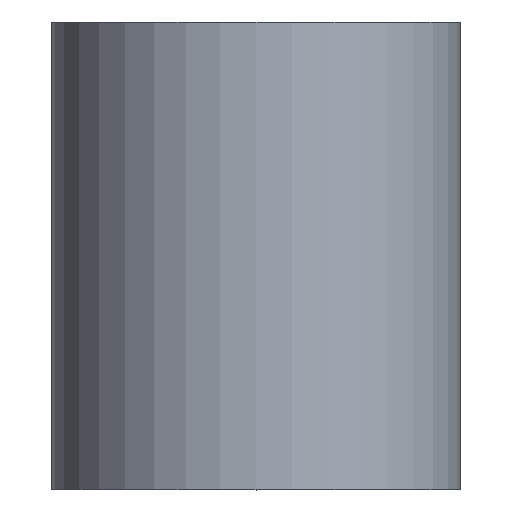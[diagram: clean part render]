
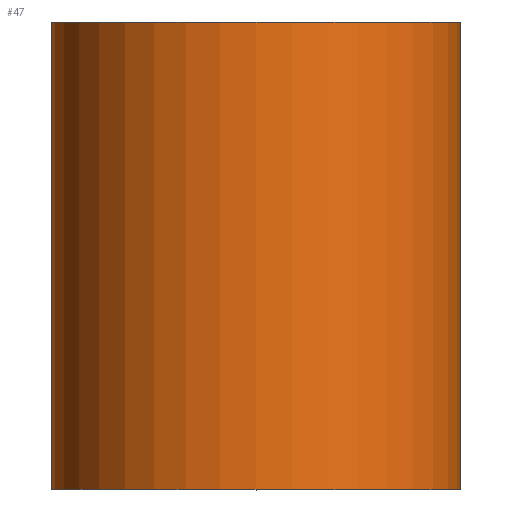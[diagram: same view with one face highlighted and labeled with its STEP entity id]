
A CAD part, top view. The second image highlights one B-rep face of the part: STEP entity #47.
In plain terms, the highlighted cylindrical face has radius 3.5 mm (diameter 7 mm), a partial arc.
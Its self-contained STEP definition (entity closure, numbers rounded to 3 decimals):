
#3 = DIRECTION ( 'NONE',  ( 0., 1., 0. ) ) ;
#22 = CIRCLE ( 'NONE', #72, 3.5 ) ;
#47 = ADVANCED_FACE ( 'NONE', ( #240 ), #174, .T. ) ;
#64 = CARTESIAN_POINT ( 'NONE',  ( 0., 0., 0. ) ) ;
#65 = VERTEX_POINT ( 'NONE', #185 ) ;
#72 = AXIS2_PLACEMENT_3D ( 'NONE', #223, #83, #248 ) ;
#81 = EDGE_LOOP ( 'NONE', ( #280, #231, #258, #183 ) ) ;
#83 = DIRECTION ( 'NONE',  ( 0., 1., 0. ) ) ;
#84 = DIRECTION ( 'NONE',  ( 0., 1., 0. ) ) ;
#87 = CIRCLE ( 'NONE', #271, 3.5 ) ;
#88 = DIRECTION ( 'NONE',  ( 0., 1., 0. ) ) ;
#93 = EDGE_CURVE ( 'NONE', #255, #238, #125, .T. ) ;
#98 = DIRECTION ( 'NONE',  ( 0., 1., 0. ) ) ;
#109 = DIRECTION ( 'NONE',  ( -1., 0., 0. ) ) ;
#116 = VECTOR ( 'NONE', #3, 1000. ) ;
#125 = LINE ( 'NONE', #285, #300 ) ;
#129 = DIRECTION ( 'NONE',  ( -1., 0., 0. ) ) ;
#132 = CARTESIAN_POINT ( 'NONE',  ( 3.5, 8., 0. ) ) ;
#135 = CARTESIAN_POINT ( 'NONE',  ( 3.5, 0., 0. ) ) ;
#146 = CARTESIAN_POINT ( 'NONE',  ( -3.5, 0., 0. ) ) ;
#170 = LINE ( 'NONE', #146, #116 ) ;
#174 = CYLINDRICAL_SURFACE ( 'NONE', #180, 3.5 ) ;
#180 = AXIS2_PLACEMENT_3D ( 'NONE', #64, #88, #109 ) ;
#183 = ORIENTED_EDGE ( 'NONE', *, *, #186, .F. ) ;
#185 = CARTESIAN_POINT ( 'NONE',  ( -3.5, 8., 0. ) ) ;
#186 = EDGE_CURVE ( 'NONE', #235, #65, #170, .T. ) ;
#196 = CARTESIAN_POINT ( 'NONE',  ( -3.5, 0., 0. ) ) ;
#223 = CARTESIAN_POINT ( 'NONE',  ( 0., 0., 0. ) ) ;
#231 = ORIENTED_EDGE ( 'NONE', *, *, #93, .T. ) ;
#235 = VERTEX_POINT ( 'NONE', #196 ) ;
#238 = VERTEX_POINT ( 'NONE', #132 ) ;
#240 = FACE_OUTER_BOUND ( 'NONE', #81, .T. ) ;
#248 = DIRECTION ( 'NONE',  ( -1., 0., 0. ) ) ;
#255 = VERTEX_POINT ( 'NONE', #135 ) ;
#258 = ORIENTED_EDGE ( 'NONE', *, *, #293, .F. ) ;
#260 = EDGE_CURVE ( 'NONE', #235, #255, #22, .T. ) ;
#266 = CARTESIAN_POINT ( 'NONE',  ( 0., 8., 0. ) ) ;
#271 = AXIS2_PLACEMENT_3D ( 'NONE', #266, #84, #129 ) ;
#280 = ORIENTED_EDGE ( 'NONE', *, *, #260, .T. ) ;
#285 = CARTESIAN_POINT ( 'NONE',  ( 3.5, 0., 0. ) ) ;
#293 = EDGE_CURVE ( 'NONE', #65, #238, #87, .T. ) ;
#300 = VECTOR ( 'NONE', #98, 1000. ) ;
